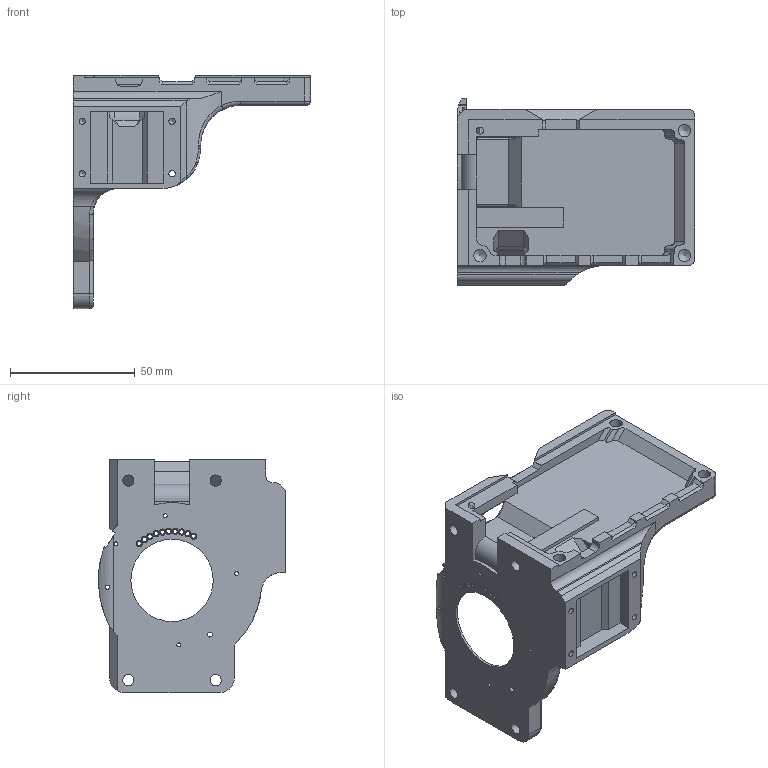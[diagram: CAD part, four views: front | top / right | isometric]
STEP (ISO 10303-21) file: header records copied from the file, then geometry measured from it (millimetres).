
FILE_DESCRIPTION(/* description */ (''),/* implementation_level */ '2;1');
FILE_NAME(/* name */ 'adapter plate.step',/* time_stamp */ '2026-11-14T21:04:14-07:00',/* author */ (''),/* organization */ (''),/* preprocessor_version */ 'ST-DEVELOPER v20.2',/* originating_system */ 'Autodesk Translation Framework v15.17.0.0',/* authorisation */ '');
FILE_SCHEMA (('AUTOMOTIVE_DESIGN { 1 0 10303 214 3 1 1 }'));
Length unit declared in the file: millimetre
Products named in the file (1): 2026-11-14-21-04-13-747
Bounding box: 95 x 75 x 93.5 mm (x, y, z)
Volume: 72371.1 mm3; surface area: 32224.2 mm2
Topology: 1 solids, 1 shells, 310 faces, 877 edges, 564 vertices
Faces by surface type: plane 138, cylinder 105, bspline 30, cone 24, torus 13
Full cylindrical faces by diameter (mm): 1.5 x1, 1.6 x4, 1.7 x10, 2 x1, 2.529 x4, 4.5 x5, 5 x3, 7.5 x4, 33 x1
Entity records: 11340 total; most frequent: CARTESIAN_POINT 3306, ORIENTED_EDGE 1740, DIRECTION 1591, EDGE_CURVE 870, VERTEX_POINT 565, AXIS2_PLACEMENT_3D 559, LINE 473, VECTOR 473
